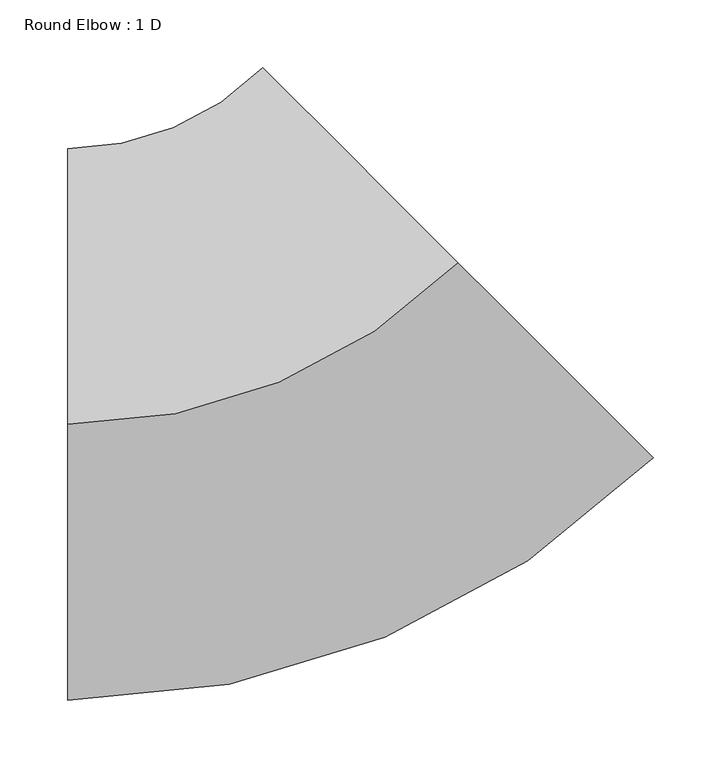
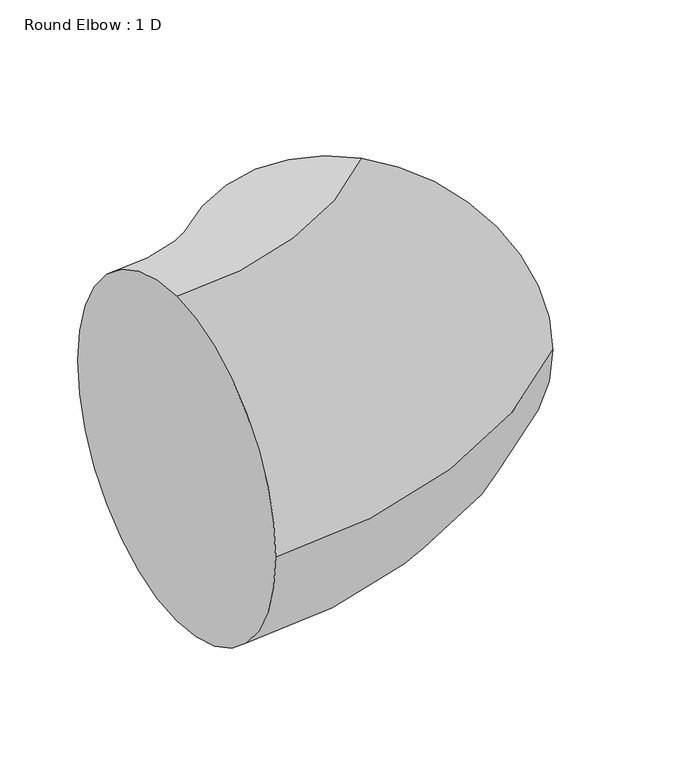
"""IFC4 building model written with IfcOpenShell, lengths in millimetres: duct fitting geometry, Round Elbow : 1 D."""

from ifc_helpers import new_model, si_unit, point, frame, origin, place, context, project, spatial, circle_curve, ellipse_curve, trimmed, source, transform, mapped, element, save
from ifc_brep_helpers import plane_surface, revolved_surface, advanced_brep


def round_elbow_1_d_a6b9d10c(model_context):
    return source(origin(), model_context, "Body", "AdvancedBrep", [
        advanced_brep(
        [(-168.4851633, 0.0, 203.2), (-168.4851633, 203.2, 0.0), (-168.4851633, 0.0, -203.2), (-168.4851633, -203.2, 0.0), (119.0625364, 119.2114201, 203.2), (262.8363862, -24.3828698, 0.0), (119.0625364, 119.2114201, -203.2), (-24.7113135, 262.8057101, 0.0)],
        [
            (0, 1, circle_curve(frame((-168.4851633, 0.0, 0.0), z_axis=(-1.0, 0.0, 0.0), x_axis=(0.0, 1.0, 0.0)), 203.2)),
            (1, 2, circle_curve(frame((-168.4851633, 0.0, 0.0), z_axis=(-1.0, 0.0, 0.0), x_axis=(0.0, 1.0, 0.0)), 203.2)),
            (2, 3, circle_curve(frame((-168.4851633, 0.0, 0.0), z_axis=(-1.0, 0.0, 0.0), x_axis=(0.0, 1.0, 0.0)), 203.2)),
            (3, 0, circle_curve(frame((-168.4851633, 0.0, 0.0), z_axis=(-1.0, 0.0, 0.0), x_axis=(0.0, 1.0, 0.0)), 203.2)),
            (4, 5, circle_curve(frame((119.0625364, 119.2114201, 0.0), z_axis=(0.7066648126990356, 0.7075484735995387, 0.0), x_axis=(-0.7075484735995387, 0.7066648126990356, 0.0)), 203.2)),
            (5, 6, circle_curve(frame((119.0625364, 119.2114201, 0.0), z_axis=(0.7066648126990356, 0.7075484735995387, 0.0), x_axis=(-0.7075484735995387, 0.7066648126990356, 0.0)), 203.2)),
            (6, 7, circle_curve(frame((119.0625364, 119.2114201, 0.0), z_axis=(0.7066648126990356, 0.7075484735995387, 0.0), x_axis=(-0.7075484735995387, 0.7066648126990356, 0.0)), 203.2)),
            (7, 4, circle_curve(frame((119.0625364, 119.2114201, 0.0), z_axis=(0.7066648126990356, 0.7075484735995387, 0.0), x_axis=(-0.7075484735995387, 0.7066648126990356, 0.0)), 203.2)),
            (7, 1, circle_curve(frame((-168.4851633, 406.4, 0.0), z_axis=(0.0, 0.0, -1.0), x_axis=(0.0, -1.0, 0.0)), 203.2)),
            (0, 4, circle_curve(frame((-168.4851633, 406.4, 203.2), z_axis=(0.0, 0.0, 1.0), x_axis=(0.0, -1.0, 0.0)), 406.4)),
            (6, 2, circle_curve(frame((-168.4851633, 406.4, -203.2), z_axis=(0.0, 0.0, -1.0), x_axis=(0.0, -1.0, 0.0)), 406.4)),
            (5, 3, circle_curve(frame((-168.4851633, 406.4, 0.0), z_axis=(0.0, 0.0, -1.0), x_axis=(0.0, -1.0, 0.0)), 609.6)),
        ],
        [
            plane_surface(frame((-168.4851633, 0.0, 0.0), z_axis=(-1.0, 0.0, 0.0), x_axis=(0.0, 0.0, 1.0))),
            plane_surface(frame((119.0625364, 119.2114201, 0.0), z_axis=(0.7066648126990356, 0.7075484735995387, 0.0), x_axis=(0.0, 0.0, 1.0))),
            revolved_surface(trimmed(ellipse_curve(frame((-168.4851633, 0.0, 0.0), z_axis=(-1.0, 0.0, 0.0), x_axis=(0.0, 1.0, 0.0)), 203.2, 203.2), [point((-168.4851633, 0.0, 203.2))], [point((-168.4851633, 203.2, 0.0))], True, "CARTESIAN"), (-168.4851633, 406.4, 0.0), (0.0, 0.0, 1.0)),
            revolved_surface(trimmed(ellipse_curve(frame((-168.4851633, 0.0, 0.0), z_axis=(-1.0, 0.0, 0.0), x_axis=(0.0, 1.0, 0.0)), 203.2, 203.2), [point((-168.4851633, 203.2, 0.0))], [point((-168.4851633, 0.0, -203.2))], True, "CARTESIAN"), (-168.4851633, 406.4, 0.0), (0.0, 0.0, 1.0)),
            revolved_surface(trimmed(ellipse_curve(frame((-168.4851633, 0.0, 0.0), z_axis=(-1.0, 0.0, 0.0), x_axis=(0.0, 1.0, 0.0)), 203.2, 203.2), [point((-168.4851633, 0.0, -203.2))], [point((-168.4851633, -203.2, 0.0))], True, "CARTESIAN"), (-168.4851633, 406.4, 0.0), (0.0, 0.0, 1.0)),
            revolved_surface(trimmed(ellipse_curve(frame((-168.4851633, 0.0, 0.0), z_axis=(-1.0, 0.0, 0.0), x_axis=(0.0, 1.0, 0.0)), 203.2, 203.2), [point((-168.4851633, -203.2, 0.0))], [point((-168.4851633, 0.0, 203.2))], True, "CARTESIAN"), (-168.4851633, 406.4, 0.0), (0.0, 0.0, 1.0)),
        ],
        [
            (0, [[1, 2, 3, 4]]),
            (1, [[5, 6, 7, 8]]),
            (2, [[9, -1, 10, -8]]),
            (3, [[11, -2, -9, -7]]),
            (4, [[12, -3, -11, -6]]),
            (5, [[-10, -4, -12, -5]]),
        ],
    ),
    ])


if __name__ == "__main__":
    model = new_model("IFC4")
    model_context = context("Model", 3, world=origin())
    ifc_project = project(units=[si_unit("LENGTHUNIT", "METRE", prefix="MILLI")], contexts=[model_context])
    site = spatial("IfcSite", under=ifc_project)
    building = spatial("IfcBuilding", under=site)
    placement = place(None, origin())
    round_elbow_1_d_shape = round_elbow_1_d_a6b9d10c(model_context)
    element("IfcDuctFitting", 1, ObjectType="Round Elbow : 1 D", at=placement, inside=building, context=model_context, shape_type="MappedRepresentation", body=[
        mapped(round_elbow_1_d_shape, transform((0.0, 0.0, 0.0), x_axis=(1.0, 0.0, 0.0), y_axis=(0.0, 1.0, 0.0), z_axis=(0.0, 0.0, 1.0))),
    ])
    save(model, "model.ifc")
